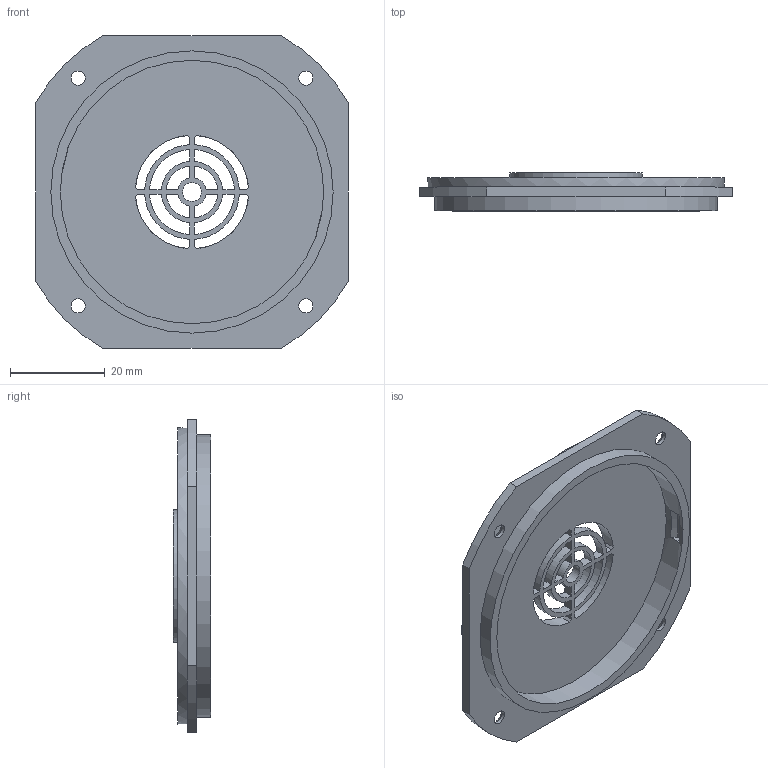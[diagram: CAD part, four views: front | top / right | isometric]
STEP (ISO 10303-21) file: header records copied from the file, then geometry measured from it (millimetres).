
FILE_DESCRIPTION(/* description */ (''),/* implementation_level */ '2;1');
FILE_NAME(/* name */ '/Users/valerian/Desktop/Filter Box Casing (Blower In) x1.step',/* time_stamp */ '2020-10-24T17:46:04+02:00',/* author */ (''),/* organization */ (''),/* preprocessor_version */ 'ST-DEVELOPER v18.1',/* originating_system */ 'Autodesk Translation Framework v9.3.0.1241',/* authorisation */ '');
FILE_SCHEMA (('AUTOMOTIVE_DESIGN { 1 0 10303 214 3 1 1 }'));
Length unit declared in the file: millimetre
Products named in the file (1): Casing
Bounding box: 66 x 8 x 66 mm (x, y, z)
Volume: 9740.2 mm3; surface area: 10674.5 mm2
Topology: 1 solids, 1 shells, 93 faces, 272 edges, 180 vertices
Faces by surface type: plane 50, cylinder 37, cone 6
Full cylindrical faces by diameter (mm): 3 x4, 4 x1, 24 x1, 28 x1, 33 x1, 55.6 x1, 59.6 x1, 62.6 x1
Entity records: 3223 total; most frequent: CARTESIAN_POINT 574, DIRECTION 552, ORIENTED_EDGE 544, EDGE_CURVE 272, AXIS2_PLACEMENT_3D 194, VERTEX_POINT 180, LINE 164, VECTOR 164
